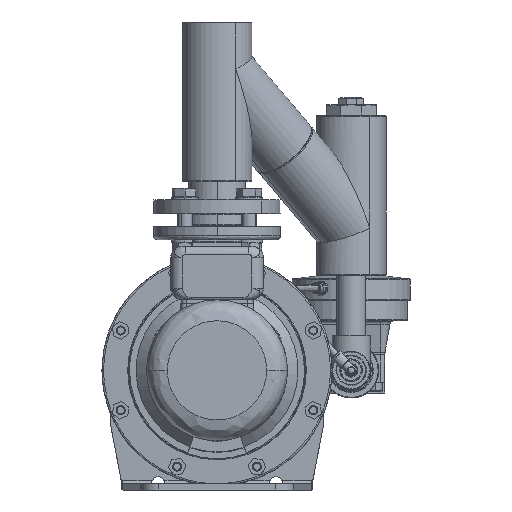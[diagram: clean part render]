
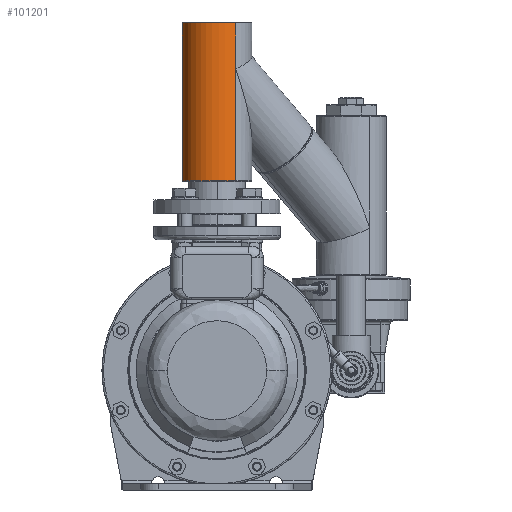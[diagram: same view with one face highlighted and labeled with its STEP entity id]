
A CAD part, front view. The second image highlights one B-rep face of the part: STEP entity #101201.
In plain terms, the highlighted cylindrical face has radius 38.5 mm (diameter 77 mm), a partial arc.
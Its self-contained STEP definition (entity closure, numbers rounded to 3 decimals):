
#1786 = AXIS2_PLACEMENT_3D ( 'NONE', #1842, #1845, #1825 ) ;
#1825 = DIRECTION ( 'NONE',  ( 0.536, -0.844, 0. ) ) ;
#1842 = CARTESIAN_POINT ( 'NONE',  ( -153.063, -215.473, 321.362 ) ) ;
#1844 = CYLINDRICAL_SURFACE ( 'NONE', #1786, 38.5 ) ;
#1845 = DIRECTION ( 'NONE',  ( 0., 0., 1. ) ) ;
#1848 = FACE_OUTER_BOUND ( 'NONE', #102256, .T. ) ;
#11616 = EDGE_CURVE ( 'NONE', #11717, #11719, #37966, .T. ) ;
#11696 = VERTEX_POINT ( 'NONE', #38108 ) ;
#11698 = VERTEX_POINT ( 'NONE', #38176 ) ;
#11703 = EDGE_CURVE ( 'NONE', #11698, #11696, #38188, .T. ) ;
#11717 = VERTEX_POINT ( 'NONE', #38180 ) ;
#11719 = VERTEX_POINT ( 'NONE', #38219 ) ;
#11950 = EDGE_CURVE ( 'NONE', #11967, #11717, #38948, .T. ) ;
#11965 = EDGE_CURVE ( 'NONE', #11698, #11973, #38981, .T. ) ;
#11967 = VERTEX_POINT ( 'NONE', #38950 ) ;
#11973 = VERTEX_POINT ( 'NONE', #38975 ) ;
#11988 = EDGE_CURVE ( 'NONE', #11696, #11967, #39003, .T. ) ;
#12091 = EDGE_CURVE ( 'NONE', #11973, #11719, #39282, .T. ) ;
#37966 = CIRCLE ( 'NONE', #38059, 38.5 ) ;
#38038 = CARTESIAN_POINT ( 'NONE',  ( -153.063, -215.473, 408.312 ) ) ;
#38051 = DIRECTION ( 'NONE',  ( 0.536, -0.844, 0. ) ) ;
#38052 = DIRECTION ( 'NONE',  ( 0., 0., -1. ) ) ;
#38059 = AXIS2_PLACEMENT_3D ( 'NONE', #38038, #38052, #38051 ) ;
#38108 = CARTESIAN_POINT ( 'NONE',  ( -132.412, -247.966, 234.412 ) ) ;
#38176 = CARTESIAN_POINT ( 'NONE',  ( -173.715, -182.98, 234.412 ) ) ;
#38177 = DIRECTION ( 'NONE',  ( 0.536, -0.844, 0. ) ) ;
#38178 = DIRECTION ( 'NONE',  ( 0., 0., 1. ) ) ;
#38180 = CARTESIAN_POINT ( 'NONE',  ( -132.412, -247.966, 408.312 ) ) ;
#38188 = CIRCLE ( 'NONE', #38192, 38.5 ) ;
#38189 = CARTESIAN_POINT ( 'NONE',  ( -153.063, -215.473, 234.412 ) ) ;
#38192 = AXIS2_PLACEMENT_3D ( 'NONE', #38189, #38178, #38177 ) ;
#38219 = CARTESIAN_POINT ( 'NONE',  ( -173.715, -182.98, 408.312 ) ) ;
#38947 = CARTESIAN_POINT ( 'NONE',  ( -132.412, -247.966, 321.362 ) ) ;
#38948 = LINE ( 'NONE', #38947, #38971 ) ;
#38950 = CARTESIAN_POINT ( 'NONE',  ( -132.412, -247.966, 357.362 ) ) ;
#38970 = DIRECTION ( 'NONE',  ( 0., 0., 1. ) ) ;
#38971 = VECTOR ( 'NONE', #38970, 1000. ) ;
#38975 = CARTESIAN_POINT ( 'NONE',  ( -173.715, -182.98, 357.362 ) ) ;
#38978 = DIRECTION ( 'NONE',  ( 0., 0., 1. ) ) ;
#38979 = VECTOR ( 'NONE', #38978, 1000. ) ;
#38980 = CARTESIAN_POINT ( 'NONE',  ( -173.715, -182.98, 321.362 ) ) ;
#38981 = LINE ( 'NONE', #38980, #38979 ) ;
#39003 = LINE ( 'NONE', #39050, #39049 ) ;
#39048 = DIRECTION ( 'NONE',  ( 0., 0., 1. ) ) ;
#39049 = VECTOR ( 'NONE', #39048, 1000. ) ;
#39050 = CARTESIAN_POINT ( 'NONE',  ( -132.412, -247.966, 321.362 ) ) ;
#39279 = DIRECTION ( 'NONE',  ( 0., 0., 1. ) ) ;
#39280 = VECTOR ( 'NONE', #39279, 1000. ) ;
#39281 = CARTESIAN_POINT ( 'NONE',  ( -173.715, -182.98, 321.362 ) ) ;
#39282 = LINE ( 'NONE', #39281, #39280 ) ;
#101006 = ORIENTED_EDGE ( 'NONE', *, *, #11616, .T. ) ;
#101201 = ADVANCED_FACE ( 'NONE', ( #1848 ), #1844, .T. ) ;
#101300 = ORIENTED_EDGE ( 'NONE', *, *, #11988, .T. ) ;
#101709 = ORIENTED_EDGE ( 'NONE', *, *, #11703, .T. ) ;
#102118 = ORIENTED_EDGE ( 'NONE', *, *, #11950, .T. ) ;
#102207 = ORIENTED_EDGE ( 'NONE', *, *, #11965, .F. ) ;
#102256 = EDGE_LOOP ( 'NONE', ( #102207, #101709, #101300, #102118, #101006, #102433 ) ) ;
#102433 = ORIENTED_EDGE ( 'NONE', *, *, #12091, .F. ) ;
